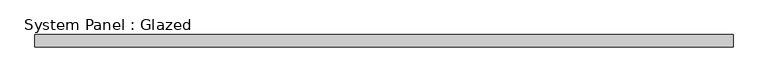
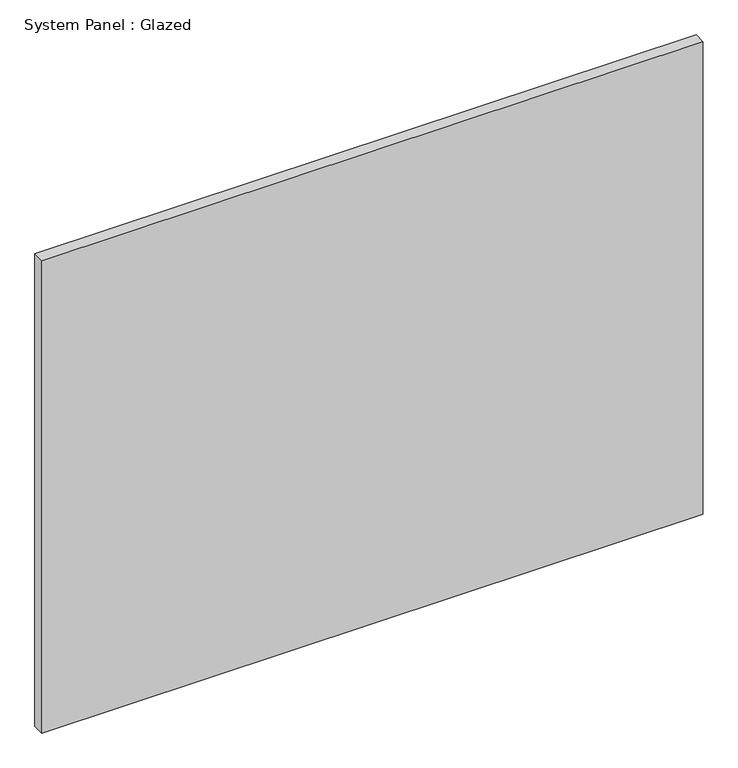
"""IFC4 building model written with IfcOpenShell, lengths in millimetres: plate geometry, System Panel : Glazed."""

from ifc_helpers import new_model, si_unit, origin, origin_with_axes, place, context, project, spatial, polyline, outline, extrude, source, transform, mapped, element, save


def system_panel_glazed_acb3b149(model_context):
    return source(origin(), model_context, "Body", "SweptSolid", [
        extrude(outline(polyline([(714.375, 19.05), (-714.375, 19.05), (-714.375, 44.45), (714.375, 44.45), (714.375, 19.05)])), origin_with_axes(), (0.0, 0.0, 1.0), 1079.5765619),
    ])


if __name__ == "__main__":
    model = new_model("IFC4")
    model_context = context("Model", 3, world=origin())
    ifc_project = project(units=[si_unit("LENGTHUNIT", "METRE", prefix="MILLI")], contexts=[model_context])
    site = spatial("IfcSite", under=ifc_project)
    building = spatial("IfcBuilding", under=site)
    placement = place(None, origin())
    system_panel_glazed_shape = system_panel_glazed_acb3b149(model_context)
    element("IfcPlate", 1, ObjectType="System Panel : Glazed", at=placement, inside=building, context=model_context, shape_type="MappedRepresentation", body=[
        mapped(system_panel_glazed_shape, transform((0.0, 0.0, 0.0), x_axis=(1.0, 0.0, 0.0), y_axis=(0.0, 1.0, 0.0), z_axis=(0.0, 0.0, 1.0))),
    ])
    save(model, "model.ifc")
